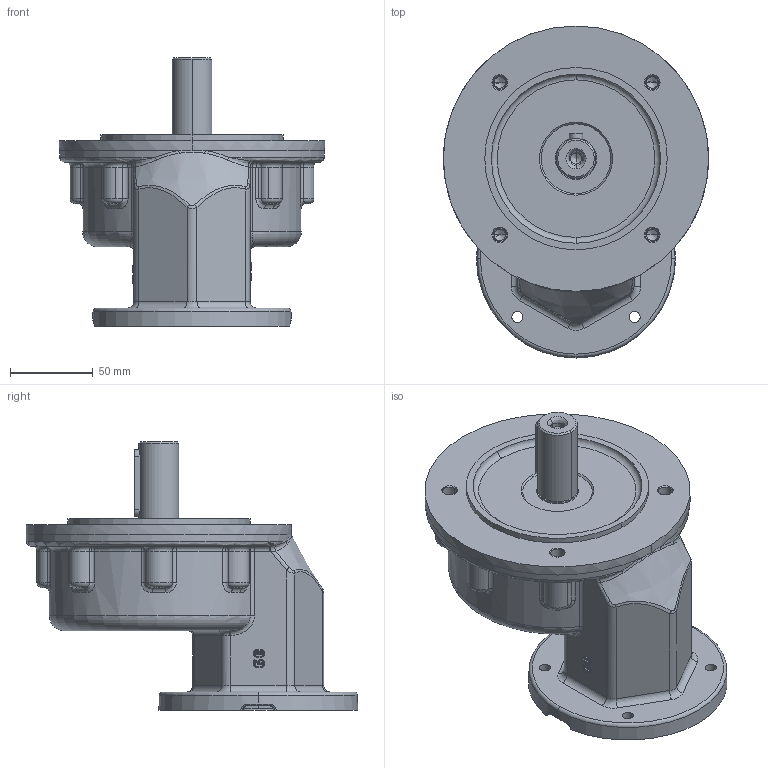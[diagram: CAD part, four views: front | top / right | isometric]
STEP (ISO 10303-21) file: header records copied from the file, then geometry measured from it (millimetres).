
FILE_DESCRIPTION (( 'STEP AP214' ), '1' );
FILE_NAME ('atc60-f100-ap80.STEP', '2010-01-29T07:33:57', ( '' ), ( '' ), 'SwSTEP 2.0', 'SolidWorks 2003240', '' );
FILE_SCHEMA (( 'AUTOMOTIVE_DESIGN' ));
Products named in the file (4): ATC60_ATC60-AP80; pøíruba d55 MRT60a_pøíruba 80-100-120; atc60-f100-ap80; D6912_Šroub DIN 6912 - M6x16
Assembly tree (8 placements, depth 2):
  atc60-f100-ap80
    D6912_Šroub DIN 6912 - M6x16  x6
    ATC60_ATC60-AP80
    pøíruba d55 MRT60a_pøíruba 80-100-120
Bounding box: 160 x 200 x 162 mm (x, y, z)
Volume: 1297484.6 mm3; surface area: 129760.4 mm2
Topology: 8 solids, 8 shells, 1006 faces, 2284 edges, 1311 vertices
Faces by surface type: torus 305, cylinder 245, plane 193, cone 181, bspline 64, sphere 18
Entity records: 78492 total; most frequent: CARTESIAN_POINT 59035, DIRECTION 4379, ORIENTED_EDGE 3848, AXIS2_PLACEMENT_3D 1966, EDGE_CURVE 1924, CIRCLE 1198, VERTEX_POINT 1154, EDGE_LOOP 888
